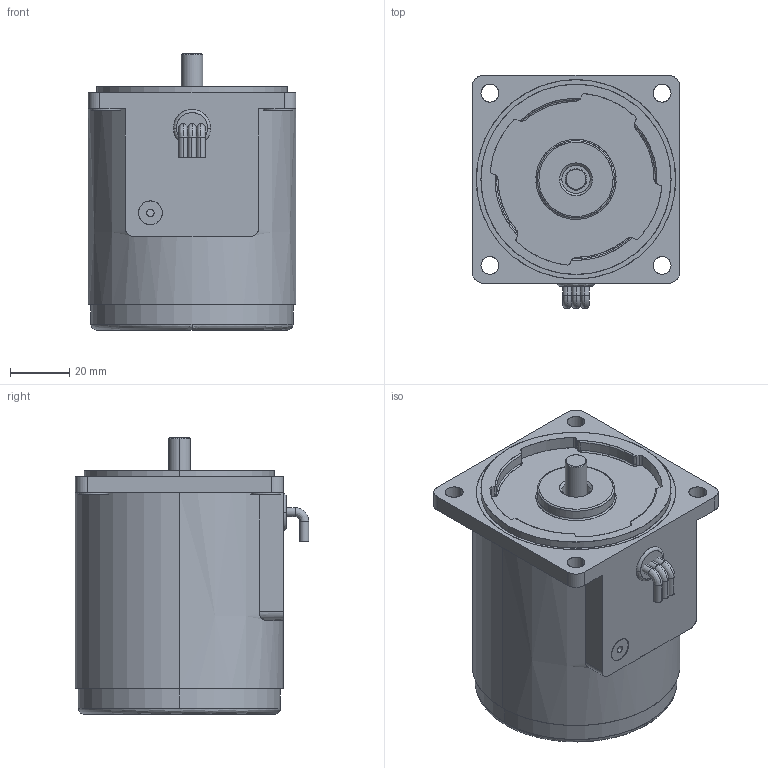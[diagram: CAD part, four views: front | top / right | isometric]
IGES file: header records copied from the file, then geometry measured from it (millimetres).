
Start section: SolidWorks IGES file using analytic representation for surfaces
Bounding box: 70 x 78.5 x 93 mm (x, y, z)
Surface area: 55370.5 mm2 (no closed solid volume)
Topology: 0 solids, 0 shells, 186 faces, 3339 edges, 3338 vertices
Faces by surface type: revolution 97, bspline 89
